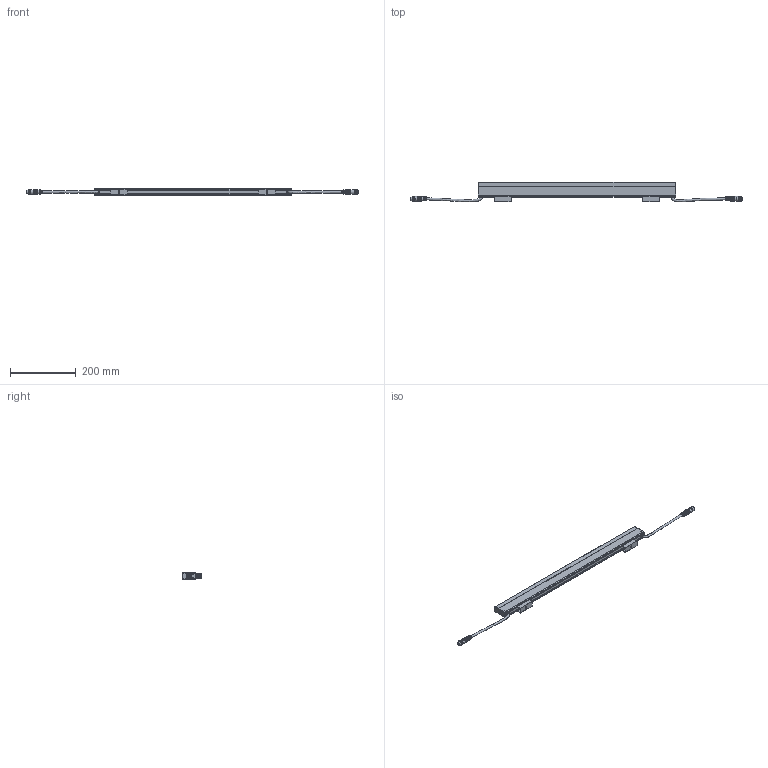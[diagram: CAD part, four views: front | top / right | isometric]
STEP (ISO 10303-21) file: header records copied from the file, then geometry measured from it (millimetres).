
FILE_DESCRIPTION (( 'STEP AP214' ), '1' );
FILE_NAME ('DiGi Linear V-Series L600 Square.STEP', '2025-07-22T11:43:26', ( '' ), ( '' ), 'SwSTEP 2.0', 'SolidWorks 2025', '' );
FILE_SCHEMA (( 'AUTOMOTIVE_DESIGN' ));
Length unit declared in the file: millimetre
Products named in the file (7): DiGi Linear V-serie - Cabling_L600; DiGi Linear V-Series L600 Square; DiGi Linear V-serie - Body_L600 Square; Counter sunk screw torx_M2x6; M12 3p Male; M12 3p Female; DiGi Linear V-serie - Clip
Assembly tree (10 placements, depth 2):
  DiGi Linear V-Series L600 Square
    DiGi Linear V-serie - Body_L600 Square
    DiGi Linear V-serie - Clip  x2
    M12 3p Male
    M12 3p Female
    DiGi Linear V-serie - Cabling_L600
    Counter sunk screw torx_M2x6  x4
Bounding box: 1007.4 x 59.99 x 18.3 mm (x, y, z)
Volume: 491124.8 mm3; surface area: 111816 mm2
Topology: 13 solids, 13 shells, 1288 faces, 3239 edges, 2020 vertices
Faces by surface type: plane 493, cylinder 358, bspline 184, torus 161, cone 80, sphere 12
Full cylindrical faces by diameter (mm): 2 x4, 2.4 x4, 3 x4, 6.5 x6, 9.7 x1, 10 x2, 10.8 x1, 12.3 x1, 14.3 x2
Entity records: 54080 total; most frequent: CARTESIAN_POINT 17232, ORIENTED_EDGE 5846, DIRECTION 4845, EDGE_CURVE 2923, VERTEX_POINT 1836, AXIS2_PLACEMENT_3D 1823, EDGE_LOOP 1283, FACE_OUTER_BOUND 1212
